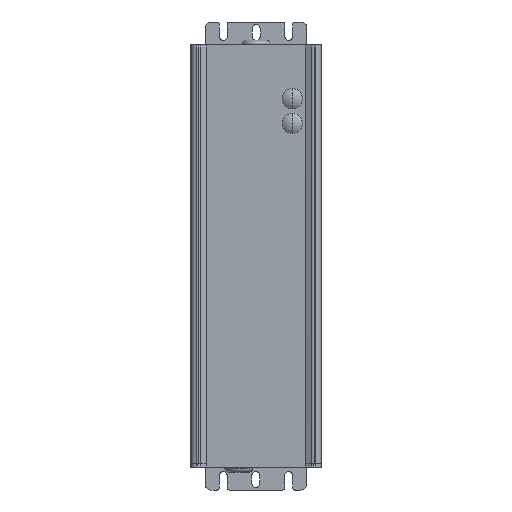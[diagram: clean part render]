
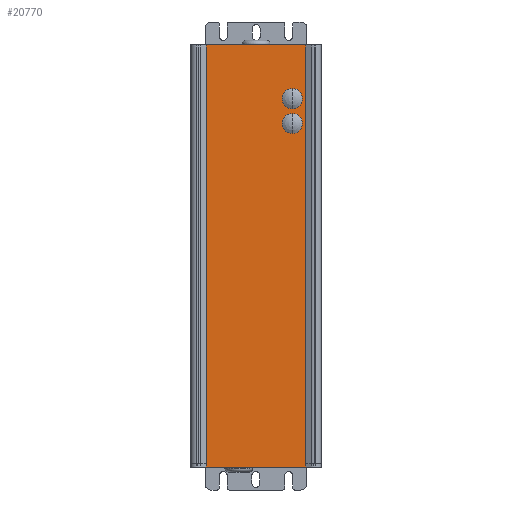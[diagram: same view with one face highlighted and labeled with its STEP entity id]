
A CAD part, left-side view. The second image highlights one B-rep face of the part: STEP entity #20770.
In plain terms, the highlighted planar face has unit normal (-1, 0, 0).
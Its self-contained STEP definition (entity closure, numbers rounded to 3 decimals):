
#18130=CARTESIAN_POINT('',(1771.873,-2398.52,-5.));
#18140=VERTEX_POINT('',#18130);
#18310=CARTESIAN_POINT('',(1771.873,-2398.564,
213.6));
#18320=VERTEX_POINT('',#18310);
#18350=CARTESIAN_POINT('',(1771.873,-2398.564,
223.6));
#18360=DIRECTION('',(0.,0.,-1.));
#18370=VECTOR('',#18360,1.);
#18380=LINE('',#18350,#18370);
#18390=CARTESIAN_POINT('',(1771.873,-2398.564,-5.));
#18400=VERTEX_POINT('',#18390);
#18410=EDGE_CURVE('',#18320,#18400,#18380,.T.);
#18430=CARTESIAN_POINT('',(1771.873,-2398.564,-5.));
#18440=DIRECTION('',(0.,1.,0.));
#18450=VECTOR('',#18440,1.);
#18460=LINE('',#18430,#18450);
#18470=EDGE_CURVE('',#18400,#18140,#18460,.T.);
#20220=CARTESIAN_POINT('',(1771.873,-2450.564,10.));
#20230=DIRECTION('',(-1.,0.,0.));
#20240=DIRECTION('',(0.,1.,0.));
#20250=AXIS2_PLACEMENT_3D('',#20220,#20230,#20240);
#20260=PLANE('',#20250);
#20270=CARTESIAN_POINT('',(1771.873,-2450.514,-5.));
#20280=DIRECTION('',(0.,0.,-1.));
#20290=VECTOR('',#20280,1.);
#20300=LINE('',#20270,#20290);
#20310=CARTESIAN_POINT('',(1771.873,-2450.514,-5.));
#20320=VERTEX_POINT('',#20310);
#20330=CARTESIAN_POINT('',(1771.873,-2450.514,-6.6));
#20340=VERTEX_POINT('',#20330);
#20350=EDGE_CURVE('',#20320,#20340,#20300,.T.);
#20360=ORIENTED_EDGE('',*,*,#20350,.F.);
#20370=CARTESIAN_POINT('',(1771.873,-2398.514,-6.6));
#20380=DIRECTION('',(0.,-1.,0.));
#20390=VECTOR('',#20380,1.);
#20400=LINE('',#20370,#20390);
#20410=CARTESIAN_POINT('',(1771.873,-2398.514,-6.6));
#20420=VERTEX_POINT('',#20410);
#20430=EDGE_CURVE('',#20420,#20340,#20400,.T.);
#20440=ORIENTED_EDGE('',*,*,#20430,.T.);
#20450=CARTESIAN_POINT('',(1771.873,-2398.514,-5.));
#20460=DIRECTION('',(0.,0.,-1.));
#20470=VECTOR('',#20460,1.);
#20480=LINE('',#20450,#20470);
#20490=EDGE_CURVE('',#18140,#20420,#20480,.T.);
#20500=ORIENTED_EDGE('',*,*,#20490,.T.);
#20510=ORIENTED_EDGE('',*,*,#18470,.T.);
#20520=ORIENTED_EDGE('',*,*,#18410,.T.);
#20530=CARTESIAN_POINT('',(1771.873,-2450.564,
213.6));
#20540=DIRECTION('',(0.,1.,0.));
#20550=VECTOR('',#20540,1.);
#20560=LINE('',#20530,#20550);
#20570=CARTESIAN_POINT('',(1771.873,-2450.564,
213.6));
#20580=VERTEX_POINT('',#20570);
#20590=EDGE_CURVE('',#20580,#18320,#20560,.T.);
#20600=ORIENTED_EDGE('',*,*,#20590,.T.);
#20610=CARTESIAN_POINT('',(1771.873,-2450.564,
223.6));
#20620=DIRECTION('',(0.,0.,-1.));
#20630=VECTOR('',#20620,1.);
#20640=LINE('',#20610,#20630);
#20650=CARTESIAN_POINT('',(1771.873,-2450.564,-5.));
#20660=VERTEX_POINT('',#20650);
#20670=EDGE_CURVE('',#20580,#20660,#20640,.T.);
#20680=ORIENTED_EDGE('',*,*,#20670,.F.);
#20690=CARTESIAN_POINT('',(1771.873,-2450.514,-5.));
#20700=DIRECTION('',(0.,-1.,0.));
#20710=VECTOR('',#20700,1.);
#20720=LINE('',#20690,#20710);
#20730=EDGE_CURVE('',#20320,#20660,#20720,.T.);
#20740=ORIENTED_EDGE('',*,*,#20730,.T.);
#20750=EDGE_LOOP('',(#20740,#20680,#20600,#20520,#20510,#20500,#20440,
#20360));
#20760=FACE_OUTER_BOUND('',#20750,.T.);
#20770=ADVANCED_FACE('',(#20760),#20260,.T.);
